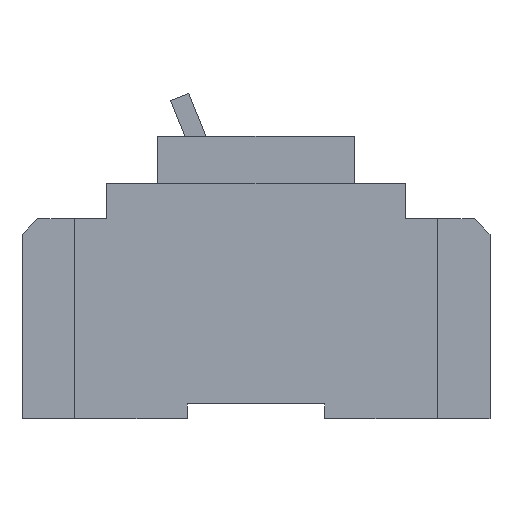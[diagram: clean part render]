
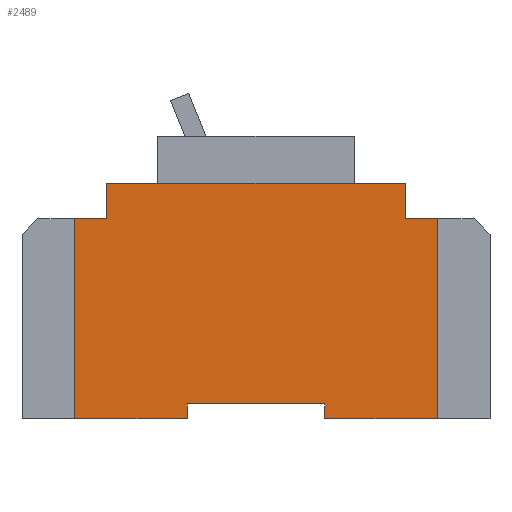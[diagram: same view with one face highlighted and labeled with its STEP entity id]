
A CAD part, left-side view. The second image highlights one B-rep face of the part: STEP entity #2489.
In plain terms, the highlighted planar face has unit normal (-1, 0, 0).
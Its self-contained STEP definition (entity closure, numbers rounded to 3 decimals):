
#1633 = VERTEX_POINT( '', #4533 );
#1759 = EDGE_CURVE( '', #2373, #2061, #4665, .T. );
#2007 = EDGE_CURVE( '', #2517, #2373, #4943, .T. );
#2061 = VERTEX_POINT( '', #5005 );
#2139 = EDGE_CURVE( '', #3393, #3531, #5088, .T. );
#2219 = EDGE_CURVE( '', #3025, #3393, #5177, .T. );
#2253 = EDGE_CURVE( '', #3551, #3745, #5215, .T. );
#2295 = EDGE_CURVE( '', #3691, #1633, #5259, .T. );
#2359 = EDGE_CURVE( '', #3025, #2893, #5329, .T. );
#2373 = VERTEX_POINT( '', #5346 );
#2417 = EDGE_CURVE( '', #3573, #2893, #5393, .T. );
#2489 = ADVANCED_FACE( '', ( #5472 ), #5473, .F. );
#2517 = VERTEX_POINT( '', #5507 );
#2893 = VERTEX_POINT( '', #5911 );
#3025 = VERTEX_POINT( '', #6062 );
#3321 = EDGE_CURVE( '', #1633, #3551, #6385, .T. );
#3393 = VERTEX_POINT( '', #6461 );
#3531 = VERTEX_POINT( '', #6614 );
#3551 = VERTEX_POINT( '', #6634 );
#3573 = VERTEX_POINT( '', #6660 );
#3581 = EDGE_CURVE( '', #3531, #2517, #6669, .T. );
#3609 = EDGE_CURVE( '', #3691, #2061, #6698, .T. );
#3691 = VERTEX_POINT( '', #6787 );
#3733 = EDGE_CURVE( '', #3745, #3573, #6834, .T. );
#3745 = VERTEX_POINT( '', #6847 );
#4533 = CARTESIAN_POINT( '', ( -25., 24.5, 0. ) );
#4665 = LINE( '', #7950, #7951 );
#4943 = LINE( '', #8334, #8335 );
#5005 = CARTESIAN_POINT( '', ( -25., -4.25, 51. ) );
#5088 = LINE( '', #8531, #8532 );
#5177 = LINE( '', #8659, #8660 );
#5215 = LINE( '', #8710, #8711 );
#5259 = LINE( '', #8777, #8778 );
#5329 = LINE( '', #8880, #8881 );
#5346 = CARTESIAN_POINT( '', ( -25., 4., 51. ) );
#5393 = LINE( '', #8964, #8965 );
#5472 = FACE_OUTER_BOUND( '', #9087, .T. );
#5473 = PLANE( '', #9088 );
#5507 = CARTESIAN_POINT( '', ( -25., 4., 60. ) );
#5911 = CARTESIAN_POINT( '', ( -25., 88.25, 0. ) );
#6062 = CARTESIAN_POINT( '', ( -25., 88.25, 51. ) );
#6385 = LINE( '', #10386, #10387 );
#6461 = CARTESIAN_POINT( '', ( -25., 80., 51. ) );
#6614 = CARTESIAN_POINT( '', ( -25., 80., 60. ) );
#6634 = CARTESIAN_POINT( '', ( -25., 24.5, 3.75 ) );
#6660 = CARTESIAN_POINT( '', ( -25., 59.5, 0. ) );
#6669 = LINE( '', #10803, #10804 );
#6698 = LINE( '', #10849, #10850 );
#6787 = CARTESIAN_POINT( '', ( -25., -4.25, 0. ) );
#6834 = LINE( '', #11032, #11033 );
#6847 = CARTESIAN_POINT( '', ( -25., 59.5, 3.75 ) );
#7950 = CARTESIAN_POINT( '', ( -25., 4., 51. ) );
#7951 = VECTOR( '', #12242, 1. );
#8334 = CARTESIAN_POINT( '', ( -25., 4., 60. ) );
#8335 = VECTOR( '', #12591, 1. );
#8531 = CARTESIAN_POINT( '', ( -25., 80., 51. ) );
#8532 = VECTOR( '', #12739, 1. );
#8659 = CARTESIAN_POINT( '', ( -25., 92., 51. ) );
#8660 = VECTOR( '', #12833, 1. );
#8710 = CARTESIAN_POINT( '', ( -25., 24.5, 3.75 ) );
#8711 = VECTOR( '', #12878, 1. );
#8777 = CARTESIAN_POINT( '', ( -25., -8., 0. ) );
#8778 = VECTOR( '', #12908, 1. );
#8880 = CARTESIAN_POINT( '', ( -25., 88.25, 0. ) );
#8881 = VECTOR( '', #12976, 1. );
#8964 = CARTESIAN_POINT( '', ( -25., 59.5, 0. ) );
#8965 = VECTOR( '', #13060, 1. );
#9087 = EDGE_LOOP( '', ( #13152, #13153, #13154, #13155, #13156, #13157, #13158, #13159, #13160, #13161, #13162, #13163 ) );
#9088 = AXIS2_PLACEMENT_3D( '', #13164, #13165, #13166 );
#10386 = CARTESIAN_POINT( '', ( -25., 24.5, 0. ) );
#10387 = VECTOR( '', #14145, 1. );
#10803 = CARTESIAN_POINT( '', ( -25., 80., 60. ) );
#10804 = VECTOR( '', #14432, 1. );
#10849 = CARTESIAN_POINT( '', ( -25., -4.25, 0. ) );
#10850 = VECTOR( '', #14451, 1. );
#11032 = CARTESIAN_POINT( '', ( -25., 59.5, 3.75 ) );
#11033 = VECTOR( '', #14572, 1. );
#12242 = DIRECTION( '', ( 0., -1., 0. ) );
#12591 = DIRECTION( '', ( 0., 0., -1. ) );
#12739 = DIRECTION( '', ( 0., 0., 1. ) );
#12833 = DIRECTION( '', ( 0., -1., 0. ) );
#12878 = DIRECTION( '', ( 0., 1., 0. ) );
#12908 = DIRECTION( '', ( 0., 1., 0. ) );
#12976 = DIRECTION( '', ( 0., 0., -1. ) );
#13060 = DIRECTION( '', ( 0., 1., 0. ) );
#13152 = ORIENTED_EDGE( '', *, *, #3609, .T. );
#13153 = ORIENTED_EDGE( '', *, *, #1759, .F. );
#13154 = ORIENTED_EDGE( '', *, *, #2007, .F. );
#13155 = ORIENTED_EDGE( '', *, *, #3581, .F. );
#13156 = ORIENTED_EDGE( '', *, *, #2139, .F. );
#13157 = ORIENTED_EDGE( '', *, *, #2219, .F. );
#13158 = ORIENTED_EDGE( '', *, *, #2359, .T. );
#13159 = ORIENTED_EDGE( '', *, *, #2417, .F. );
#13160 = ORIENTED_EDGE( '', *, *, #3733, .F. );
#13161 = ORIENTED_EDGE( '', *, *, #2253, .F. );
#13162 = ORIENTED_EDGE( '', *, *, #3321, .F. );
#13163 = ORIENTED_EDGE( '', *, *, #2295, .F. );
#13164 = CARTESIAN_POINT( '', ( -25., 0., 0. ) );
#13165 = DIRECTION( '', ( 1., 0., 0. ) );
#13166 = DIRECTION( '', ( 0., 0., -1. ) );
#14145 = DIRECTION( '', ( 0., 0., 1. ) );
#14432 = DIRECTION( '', ( 0., -1., 0. ) );
#14451 = DIRECTION( '', ( 0., 0., 1. ) );
#14572 = DIRECTION( '', ( 0., 0., -1. ) );
